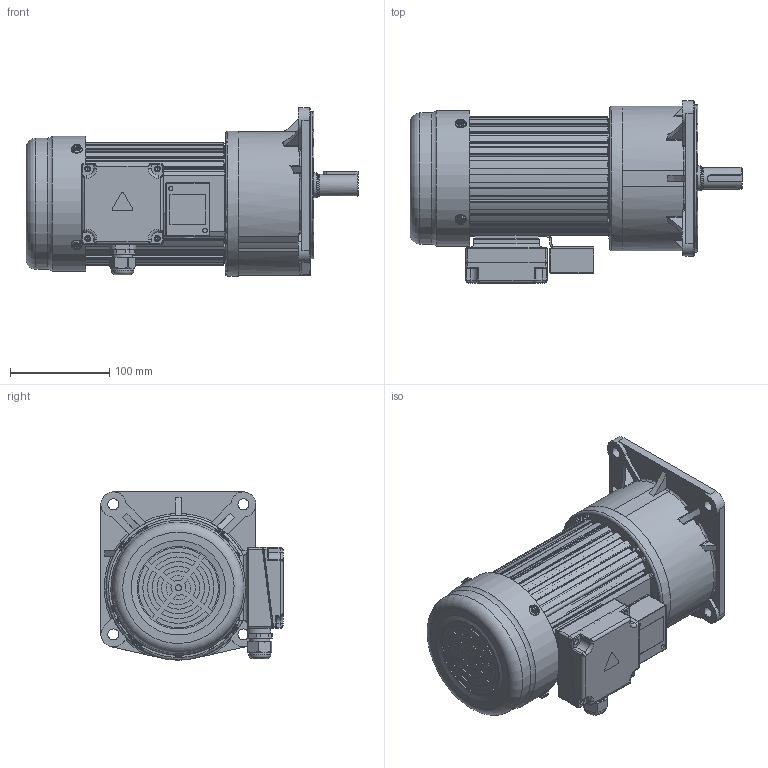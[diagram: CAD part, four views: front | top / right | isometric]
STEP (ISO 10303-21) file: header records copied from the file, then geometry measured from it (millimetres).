
FILE_DESCRIPTION(/* description */ (''),/* implementation_level */ '2;1');
FILE_NAME(/* name */ 'CV22-400-3～200外形多速比带刹车.stp',/* time_stamp */ '2025-05-02T10:13:53+08:00',/* author */ (''),/* organization */ (''),/* preprocessor_version */ 'ST-DEVELOPER v18.102',/* originating_system */ 'SIEMENS PLM Software NX 2027',/* authorisation */ '');
FILE_SCHEMA (('AP203_CONFIGURATION_CONTROLLED_3D_DESIGN_OF_MECHANICAL_PARTS_AND_ASSEMBLIES_MIM_LF { 1 0 10303 403 2 1 2}'));
Length unit declared in the file: millimetre
Products named in the file (1): CV22-400-3～200外形多速比带刹车_
objects
Bounding box: 333.8 x 183.16 x 169.16 mm (x, y, z)
Volume: 4002172.3 mm3; surface area: 393730 mm2
Topology: 23 solids, 23 shells, 3309 faces, 8603 edges, 5487 vertices
Faces by surface type: plane 1854, cylinder 855, cone 291, torus 135, extrusion 96, bspline 61, revolution 16, sphere 1
Full cylindrical faces by diameter (mm): 3 x1, 3.3 x4, 3.5 x1, 4.2 x20, 4.336 x3, 4.5 x2, 4.826 x3, 5 x4, 5.795 x5, 6 x5, 6.4 x4, 7 x3, 10 x5, 11 x13, 12.5 x1, 13 x1, 13.98 x1, 14.5 x1, 16 x3, 17 x2, 19.5 x1, 20 x3, 21 x1, 21.6 x1, 22 x1, 22.5 x1, 25 x1, 40 x1, 50 x1, 56 x1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
Entity records: 108485 total; most frequent: CARTESIAN_POINT 30431, ORIENTED_EDGE 16574, DIRECTION 15131, EDGE_CURVE 8287, VERTEX_POINT 5409, AXIS2_PLACEMENT_3D 5184, VECTOR 4747, LINE 4651
